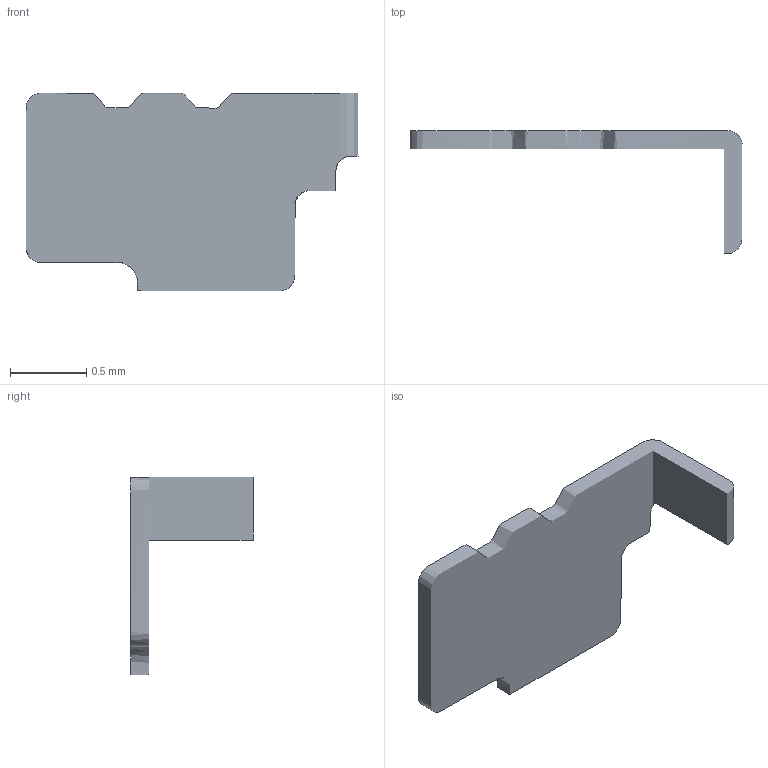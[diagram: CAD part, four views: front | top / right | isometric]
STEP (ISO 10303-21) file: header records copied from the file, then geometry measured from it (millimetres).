
FILE_DESCRIPTION(/* description */ ('STEP AP242 Edition 2','CAx-IF Rec.Pracs.---Representation and Presentation of Product Manufacturing Information (PMI)---4.0---2014-10-13','CAx-IF Rec.Pracs.---3D Tessellated Geometry---0.4---2014-09-14','2;1','CAx-IF Rec.Pracs.---User Defined Attributes---1.5---2016-08-15'),/* implementation_level */ '2;1');
FILE_NAME(/* name */ 'Assembly 1 - Part 22',/* time_stamp */ '2026-03-29T21:14:57Z',/* author */ (''),/* organization */ (''),/* preprocessor_version */ 'ST-DEVELOPER v20',/* originating_system */ 'ONSHAPE BY PTC INC, 1.212',/* authorisation */ ' ');
FILE_SCHEMA (('AP242_MANAGED_MODEL_BASED_3D_ENGINEERING_MIM_LF { 1 0 10303 442 3 1 4 }'));
Length unit declared in the file: metre
Products named in the file (1): Part 22
Bounding box: 2.18 x 0.81 x 1.3 mm (x, y, z)
Surface area: 6.2 mm2 (no closed solid volume)
Topology: 0 solids, 1 shells, 1 faces, 0 edges, 0 vertices
Faces by surface type: other 1
Entity records: 31 total; most frequent: DIRECTION 2, SHAPE_REPRESENTATION_RELATIONSHIP 1, TESSELLATED_SHAPE_REPRESENTATION 1, STYLED_ITEM 1, PRESENTATION_STYLE_ASSIGNMENT 1, SURFACE_STYLE_USAGE 1, SURFACE_SIDE_STYLE 1, SURFACE_STYLE_FILL_AREA 1
